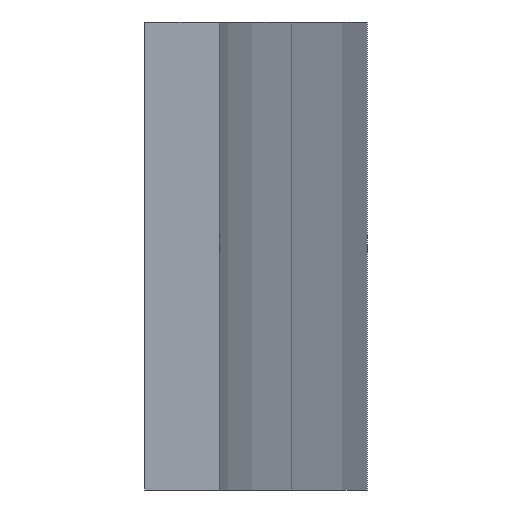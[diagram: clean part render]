
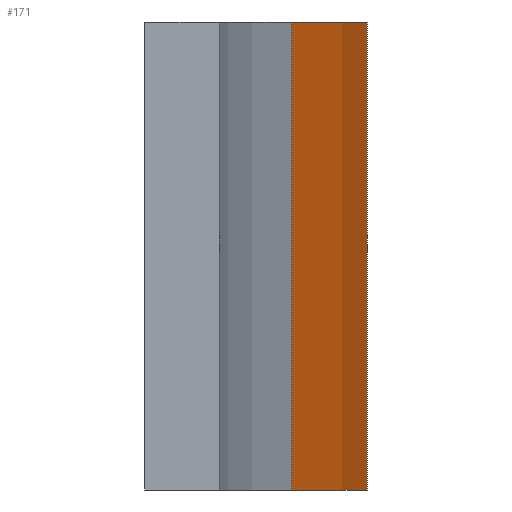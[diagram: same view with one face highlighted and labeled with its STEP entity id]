
A CAD part, left-side view. The second image highlights one B-rep face of the part: STEP entity #171.
In plain terms, the highlighted cylindrical face has radius 54.886 mm (diameter 109.773 mm), a partial arc.
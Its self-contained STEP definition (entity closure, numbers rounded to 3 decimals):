
#137 = EDGE_CURVE( '', #221, #205, #355, .T. );
#159 = VERTEX_POINT( '', #378 );
#171 = ADVANCED_FACE( '', ( #392 ), #393, .T. );
#203 = EDGE_CURVE( '', #159, #295, #429, .T. );
#205 = VERTEX_POINT( '', #431 );
#207 = EDGE_CURVE( '', #295, #205, #433, .T. );
#221 = VERTEX_POINT( '', #448 );
#265 = EDGE_CURVE( '', #159, #221, #497, .T. );
#295 = VERTEX_POINT( '', #531 );
#355 = LINE( '', #592, #593 );
#378 = CARTESIAN_POINT( '', ( 24.038, -7.849, 12.5 ) );
#392 = FACE_OUTER_BOUND( '', #642, .T. );
#393 = CYLINDRICAL_SURFACE( '', #643, 54.886 );
#429 = LINE( '', #691, #692 );
#431 = CARTESIAN_POINT( '', ( 66.272, -7.849, -12.5 ) );
#433 = CIRCLE( '', #697, 54.886 );
#448 = CARTESIAN_POINT( '', ( 66.272, -7.849, 12.5 ) );
#497 = CIRCLE( '', #778, 54.886 );
#531 = CARTESIAN_POINT( '', ( 24.038, -7.849, -12.5 ) );
#592 = CARTESIAN_POINT( '', ( 66.272, -7.849, 12.5 ) );
#593 = VECTOR( '', #880, 1. );
#642 = EDGE_LOOP( '', ( #925, #926, #927, #928 ) );
#643 = AXIS2_PLACEMENT_3D( '', #929, #930, #931 );
#691 = CARTESIAN_POINT( '', ( 24.038, -7.849, 12.5 ) );
#692 = VECTOR( '', #982, 1. );
#697 = AXIS2_PLACEMENT_3D( '', #983, #984, #985 );
#778 = AXIS2_PLACEMENT_3D( '', #1051, #1052, #1053 );
#880 = DIRECTION( '', ( 0., 0., -1. ) );
#925 = ORIENTED_EDGE( '', *, *, #207, .T. );
#926 = ORIENTED_EDGE( '', *, *, #137, .F. );
#927 = ORIENTED_EDGE( '', *, *, #265, .F. );
#928 = ORIENTED_EDGE( '', *, *, #203, .T. );
#929 = CARTESIAN_POINT( '', ( 45.155, 42.813, 12.5 ) );
#930 = DIRECTION( '', ( 0., 0., 1. ) );
#931 = DIRECTION( '', ( -0.385, -0.923, 0. ) );
#982 = DIRECTION( '', ( 0., 0., -1. ) );
#983 = CARTESIAN_POINT( '', ( 45.155, 42.813, -12.5 ) );
#984 = DIRECTION( '', ( 0., 0., 1. ) );
#985 = DIRECTION( '', ( -0.385, -0.923, 0. ) );
#1051 = CARTESIAN_POINT( '', ( 45.155, 42.813, 12.5 ) );
#1052 = DIRECTION( '', ( 0., 0., 1. ) );
#1053 = DIRECTION( '', ( -0.385, -0.923, 0. ) );
